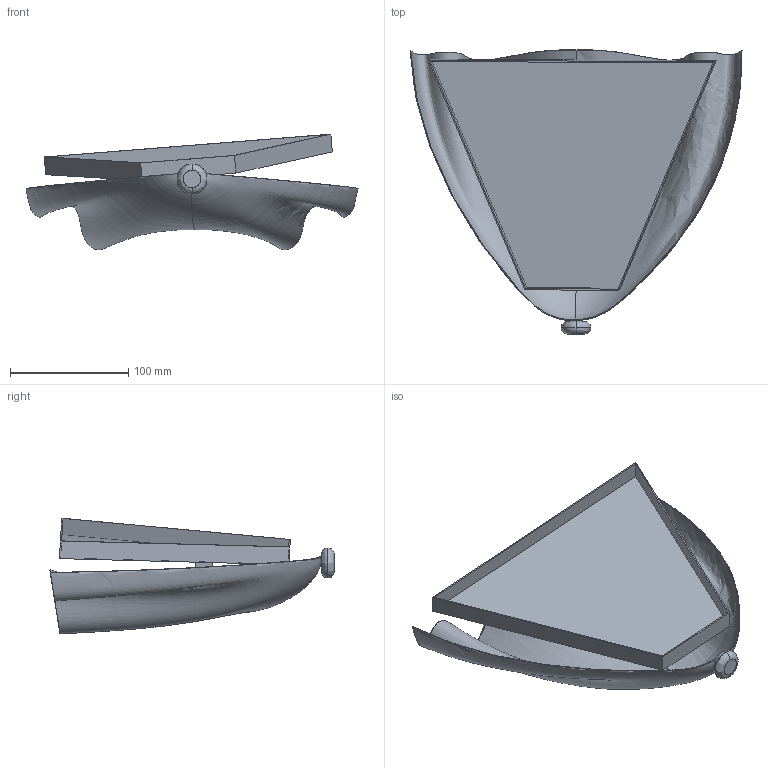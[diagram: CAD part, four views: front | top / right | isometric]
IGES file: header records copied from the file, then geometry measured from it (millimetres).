
Start section: SolidWorks IGES file using analytic representation for surfaces
Global section: file name: F:\燠隴矨\3D\2025-11\Petalia Wall Light.IGS,15; native system: HSolidWorks 2022; preprocessor: SolidWorks 2022; author: MyPC; date: 251102.151311; units: millimetre
Bounding box: 280.59 x 240.34 x 97.78 mm (x, y, z)
Surface area: 214766.8 mm2 (no closed solid volume)
Topology: 0 solids, 0 shells, 232 faces, 2049 edges, 2043 vertices
Faces by surface type: bspline 188, revolution 44
